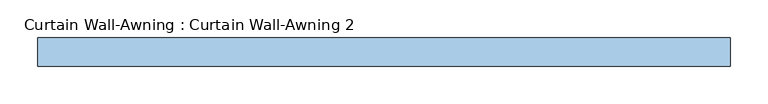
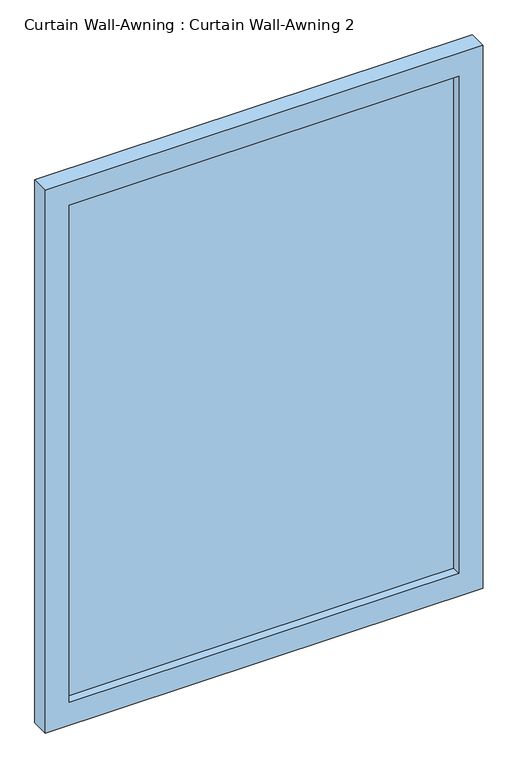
"""IFC4 building model written with IfcOpenShell, lengths in millimetres: window geometry, Curtain Wall-Awning : Curtain Wall-Awning 2."""

from ifc_helpers import new_model, si_unit, frame, origin, place, context, project, spatial, polyline, outline, extrude, source, transform, mapped, element, save


def curtain_wall_awning_curtain_wall_awning_2_32701f94(model_context):
    return source(origin(), model_context, "Body", "SweptSolid", [
        extrude(outline(polyline([(411.1625, -19.05), (-411.1625, -19.05), (-411.1625, -6.35), (411.1625, -6.35), (411.1625, -19.05)])), frame((0.0, 0.0, 50.8), z_axis=(0.0, 0.0, 1.0), x_axis=(1.0, 0.0, 0.0)), (0.0, 0.0, 1.0), 1109.0360779),
        extrude(outline(polyline([(1210.6360779, -461.9625), (0.0, -461.9625), (0.0, 461.9625), (1210.6360779, 461.9625), (1210.6360779, -461.9625)]), holes=[polyline([(1159.8360779, -411.1625), (1159.8360779, 411.1625), (50.8, 411.1625), (50.8, -411.1625), (1159.8360779, -411.1625)])]), frame((0.0, -38.1, 0.0), z_axis=(0.0, 1.0, 0.0), x_axis=(0.0, 0.0, 1.0)), (0.0, 0.0, 1.0), 38.1),
    ])


if __name__ == "__main__":
    model = new_model("IFC4")
    model_context = context("Model", 3, world=origin())
    ifc_project = project(units=[si_unit("LENGTHUNIT", "METRE", prefix="MILLI")], contexts=[model_context])
    site = spatial("IfcSite", under=ifc_project)
    building = spatial("IfcBuilding", under=site)
    placement = place(None, origin())
    curtain_wall_awning_curtain_wall_awning_2_shape = curtain_wall_awning_curtain_wall_awning_2_32701f94(model_context)
    element("IfcWindow", 1, ObjectType="Curtain Wall-Awning : Curtain Wall-Awning 2", at=placement, inside=building, context=model_context, shape_type="MappedRepresentation", body=[
        mapped(curtain_wall_awning_curtain_wall_awning_2_shape, transform((0.0, 0.0, 0.0), x_axis=(1.0, 0.0, 0.0), y_axis=(0.0, 1.0, 0.0), z_axis=(0.0, 0.0, 1.0))),
    ])
    save(model, "model.ifc")
